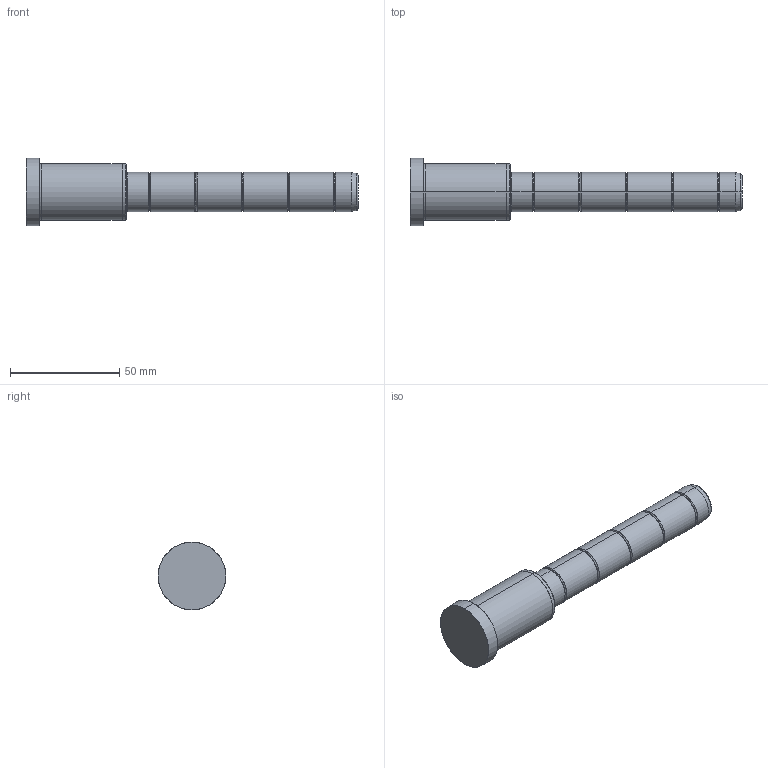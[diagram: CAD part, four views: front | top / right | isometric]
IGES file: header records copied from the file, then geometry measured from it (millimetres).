
Start section: SolidWorks IGES file using analytic representation for surfaces
Global section: file name: C:\Documents and Settings\kalite-mail\Desktop\IGS\D02\18\D02 - 18x46x106.IGS; native system: SolidWorks 2008; preprocessor: SolidWorks 2008; author: kalite-mail; date: 080616.151240; units: millimetre
Bounding box: 152 x 31 x 31 mm (x, y, z)
Surface area: 11411.5 mm2 (no closed solid volume)
Topology: 0 solids, 0 shells, 54 faces, 576 edges, 576 vertices
Faces by surface type: bspline 30, revolution 24
